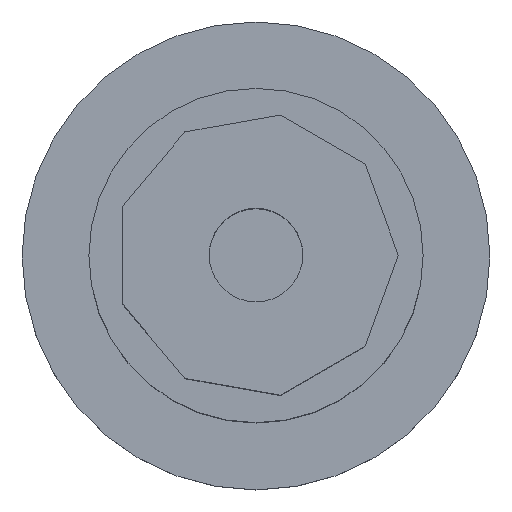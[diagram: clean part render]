
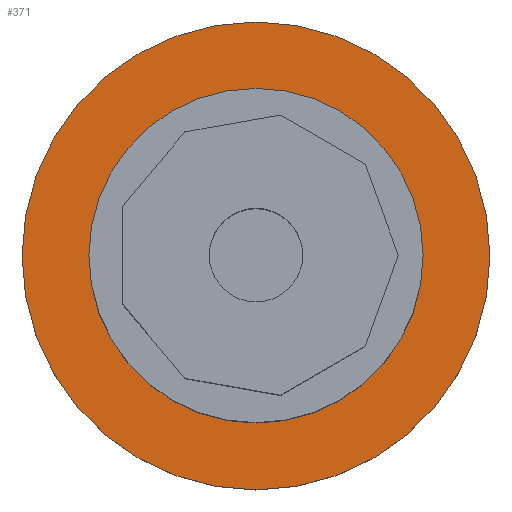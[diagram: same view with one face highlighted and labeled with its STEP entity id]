
A CAD part, top view. The second image highlights one B-rep face of the part: STEP entity #371.
In plain terms, the highlighted planar face has unit normal (0, 0, 1).
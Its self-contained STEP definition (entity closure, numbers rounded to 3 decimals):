
#195 = CYLINDRICAL_SURFACE('',#196,5.25);
#196 = AXIS2_PLACEMENT_3D('',#197,#198,#199);
#197 = CARTESIAN_POINT('',(196.,-56.5,19.2));
#198 = DIRECTION('',(-0.,-0.,-1.));
#199 = DIRECTION('',(1.,0.,0.));
#316 = VERTEX_POINT('',#317);
#317 = CARTESIAN_POINT('',(201.25,-56.5,20.4));
#338 = EDGE_CURVE('',#316,#316,#339,.T.);
#339 = SURFACE_CURVE('',#340,(#345,#352),.PCURVE_S1.);
#340 = CIRCLE('',#341,5.25);
#341 = AXIS2_PLACEMENT_3D('',#342,#343,#344);
#342 = CARTESIAN_POINT('',(196.,-56.5,20.4));
#343 = DIRECTION('',(0.,0.,1.));
#344 = DIRECTION('',(1.,0.,0.));
#345 = PCURVE('',#195,#346);
#346 = DEFINITIONAL_REPRESENTATION('',(#347),#351);
#347 = LINE('',#348,#349);
#348 = CARTESIAN_POINT('',(-0.,-1.2));
#349 = VECTOR('',#350,1.);
#350 = DIRECTION('',(-1.,0.));
#351 = ( GEOMETRIC_REPRESENTATION_CONTEXT(2) 
PARAMETRIC_REPRESENTATION_CONTEXT() REPRESENTATION_CONTEXT('2D SPACE',''
  ) );
#352 = PCURVE('',#353,#358);
#353 = PLANE('',#354);
#354 = AXIS2_PLACEMENT_3D('',#355,#356,#357);
#355 = CARTESIAN_POINT('',(196.,-56.5,20.4));
#356 = DIRECTION('',(0.,0.,1.));
#357 = DIRECTION('',(1.,0.,-0.));
#358 = DEFINITIONAL_REPRESENTATION('',(#359),#363);
#359 = CIRCLE('',#360,5.25);
#360 = AXIS2_PLACEMENT_2D('',#361,#362);
#361 = CARTESIAN_POINT('',(0.,0.));
#362 = DIRECTION('',(1.,0.));
#363 = ( GEOMETRIC_REPRESENTATION_CONTEXT(2) 
PARAMETRIC_REPRESENTATION_CONTEXT() REPRESENTATION_CONTEXT('2D SPACE',''
  ) );
#371 = ADVANCED_FACE('',(#372,#375),#353,.T.);
#372 = FACE_BOUND('',#373,.T.);
#373 = EDGE_LOOP('',(#374));
#374 = ORIENTED_EDGE('',*,*,#338,.T.);
#375 = FACE_BOUND('',#376,.T.);
#376 = EDGE_LOOP('',(#377));
#377 = ORIENTED_EDGE('',*,*,#378,.T.);
#378 = EDGE_CURVE('',#379,#379,#381,.T.);
#379 = VERTEX_POINT('',#380);
#380 = CARTESIAN_POINT('',(199.75,-56.5,20.4));
#381 = SURFACE_CURVE('',#382,(#387,#398),.PCURVE_S1.);
#382 = CIRCLE('',#383,3.75);
#383 = AXIS2_PLACEMENT_3D('',#384,#385,#386);
#384 = CARTESIAN_POINT('',(196.,-56.5,20.4));
#385 = DIRECTION('',(0.,0.,-1.));
#386 = DIRECTION('',(1.,0.,0.));
#387 = PCURVE('',#353,#388);
#388 = DEFINITIONAL_REPRESENTATION('',(#389),#397);
#389 = ( BOUNDED_CURVE() B_SPLINE_CURVE(2,(#390,#391,#392,#393,#394,#395
,#396),.UNSPECIFIED.,.T.,.F.) B_SPLINE_CURVE_WITH_KNOTS((1,2,2,2,2,1),(
    -2.094,0.,2.094,4.189,6.283,
8.378),.UNSPECIFIED.) CURVE() GEOMETRIC_REPRESENTATION_ITEM() 
RATIONAL_B_SPLINE_CURVE((1.,0.5,1.,0.5,1.,0.5,1.)) REPRESENTATION_ITEM(
  '') );
#390 = CARTESIAN_POINT('',(3.75,0.));
#391 = CARTESIAN_POINT('',(3.75,-6.495));
#392 = CARTESIAN_POINT('',(-1.875,-3.248));
#393 = CARTESIAN_POINT('',(-7.5,0.));
#394 = CARTESIAN_POINT('',(-1.875,3.248));
#395 = CARTESIAN_POINT('',(3.75,6.495));
#396 = CARTESIAN_POINT('',(3.75,0.));
#397 = ( GEOMETRIC_REPRESENTATION_CONTEXT(2) 
PARAMETRIC_REPRESENTATION_CONTEXT() REPRESENTATION_CONTEXT('2D SPACE',''
  ) );
#398 = PCURVE('',#399,#404);
#399 = CYLINDRICAL_SURFACE('',#400,3.75);
#400 = AXIS2_PLACEMENT_3D('',#401,#402,#403);
#401 = CARTESIAN_POINT('',(196.,-56.5,6.9));
#402 = DIRECTION('',(-0.,-0.,-1.));
#403 = DIRECTION('',(1.,0.,0.));
#404 = DEFINITIONAL_REPRESENTATION('',(#405),#409);
#405 = LINE('',#406,#407);
#406 = CARTESIAN_POINT('',(-6.283,-13.5));
#407 = VECTOR('',#408,1.);
#408 = DIRECTION('',(1.,-0.));
#409 = ( GEOMETRIC_REPRESENTATION_CONTEXT(2) 
PARAMETRIC_REPRESENTATION_CONTEXT() REPRESENTATION_CONTEXT('2D SPACE',''
  ) );
